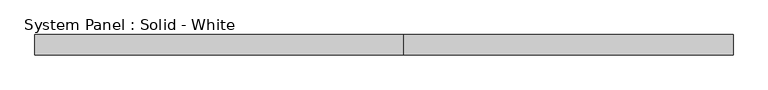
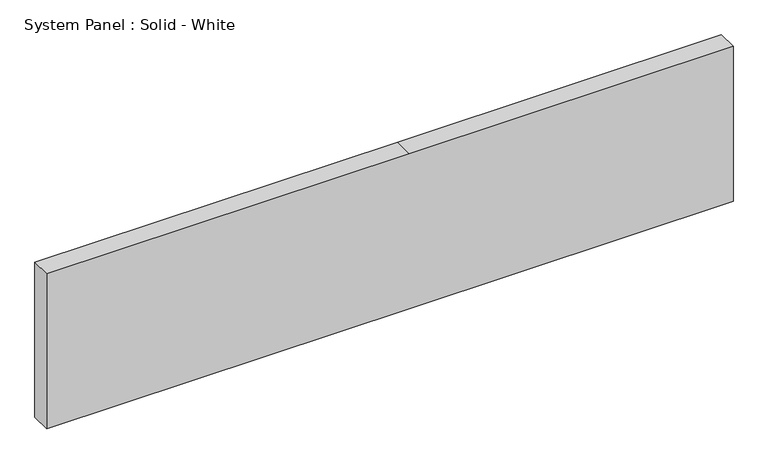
"""IFC4 building model written with IfcOpenShell, lengths in millimetres: plate geometry, System Panel : Solid - White."""

from ifc_helpers import new_model, si_unit, frame, origin, place, context, project, spatial, polyline, outline, extrude, source, transform, mapped, element, save


def system_panel_solid_white_cda7d415(model_context):
    return source(origin(), model_context, "Body", "SweptSolid", [
        extrude(outline(polyline([(0.0, -1078.8312349), (0.0, 61.0169492), (0.0, 1078.8312349), (514.35, 1078.8312349), (514.35, 61.0169492), (514.35, -1078.8312349), (0.0, -1078.8312349)])), frame((0.0, -19.05, 0.0), z_axis=(0.0, 1.0, 0.0), x_axis=(0.0, 0.0, 1.0)), (0.0, 0.0, 1.0), 63.5),
    ])


if __name__ == "__main__":
    model = new_model("IFC4")
    model_context = context("Model", 3, world=origin())
    ifc_project = project(units=[si_unit("LENGTHUNIT", "METRE", prefix="MILLI")], contexts=[model_context])
    site = spatial("IfcSite", under=ifc_project)
    building = spatial("IfcBuilding", under=site)
    placement = place(None, origin())
    system_panel_solid_white_shape = system_panel_solid_white_cda7d415(model_context)
    element("IfcPlate", 1, ObjectType="System Panel : Solid - White", at=placement, inside=building, context=model_context, shape_type="MappedRepresentation", body=[
        mapped(system_panel_solid_white_shape, transform((0.0, 0.0, 0.0), x_axis=(1.0, 0.0, 0.0), y_axis=(0.0, 1.0, 0.0), z_axis=(0.0, 0.0, 1.0))),
    ])
    save(model, "model.ifc")
